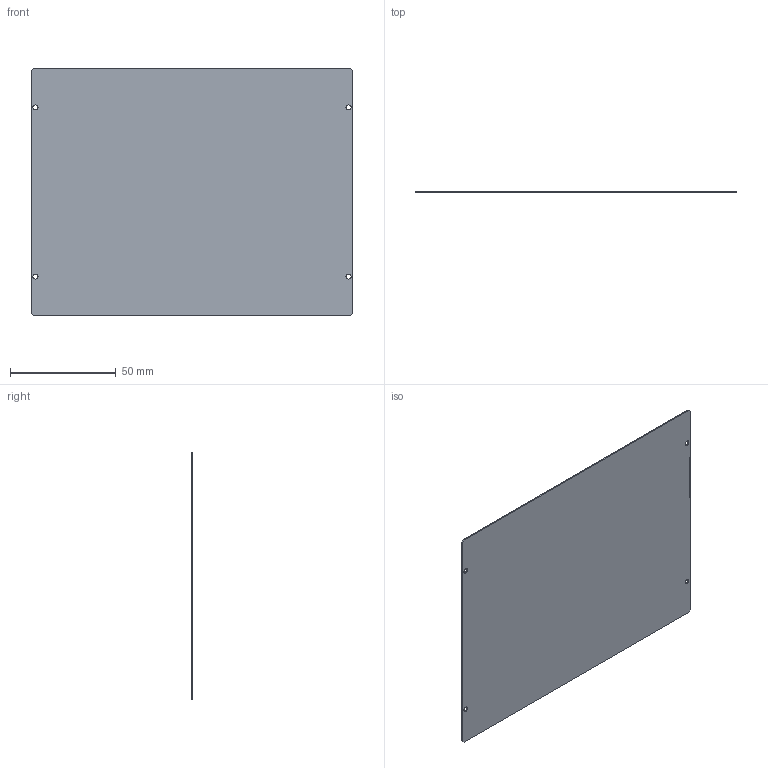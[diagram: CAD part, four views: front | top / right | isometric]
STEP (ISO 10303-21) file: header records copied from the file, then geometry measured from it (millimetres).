
FILE_DESCRIPTION (( 'STEP AP203' ), '1' );
FILE_NAME ('UA07205.STEP', '2020-06-09T00:44:42', ( 'CCS' ), ( 'シーシーエス株式会社' ), 'SwSTEP 2.0', 'SolidWorks 2017', '' );
FILE_SCHEMA (( 'CONFIG_CONTROL_DESIGN' ));
Length unit declared in the file: millimetre
Products named in the file (2): KA07205-A001; UA07205
Assembly tree (1 placements, depth 2):
  UA07205
    KA07205-A001
Bounding box: 152 x 0.5 x 117 mm (x, y, z)
Volume: 8882 mm3; surface area: 35810.7 mm2
Topology: 1 solids, 1 shells, 18 faces, 48 edges, 32 vertices
Faces by surface type: plane 10, cylinder 8
Entity records: 780 total; most frequent: DIRECTION 108, CARTESIAN_POINT 102, ORIENTED_EDGE 96, EDGE_CURVE 48, AXIS2_PLACEMENT_3D 38, LINE 32, VECTOR 32, VERTEX_POINT 32
